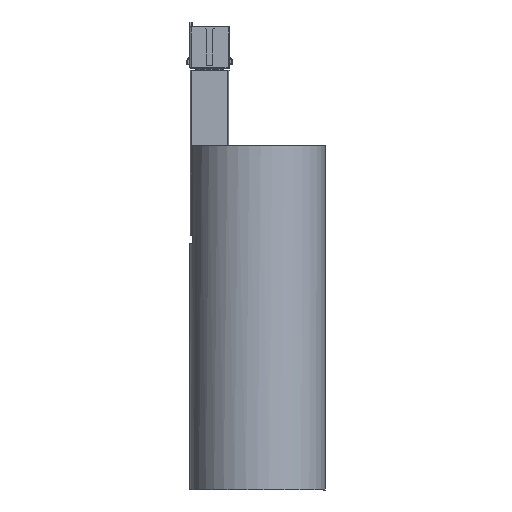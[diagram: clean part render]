
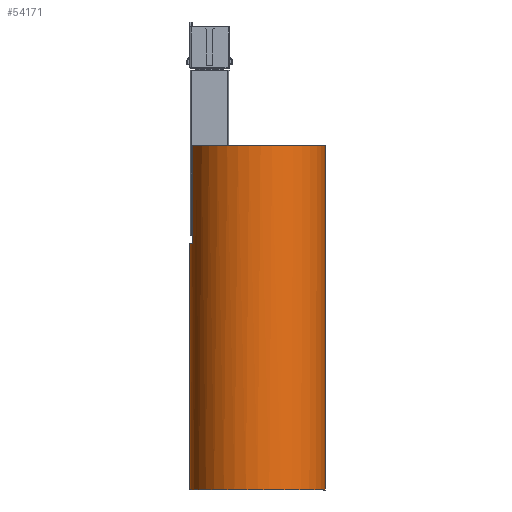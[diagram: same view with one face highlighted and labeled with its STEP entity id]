
A CAD part, left-side view. The second image highlights one B-rep face of the part: STEP entity #54171.
In plain terms, the highlighted cylindrical face has radius 27.5 mm (diameter 55 mm), a partial arc.
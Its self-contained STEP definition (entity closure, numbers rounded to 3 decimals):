
#960 = ORIENTED_EDGE ( 'NONE', *, *, #35964, .F. ) ;
#1223 = DIRECTION ( 'NONE',  ( 0., 0., -1. ) ) ;
#4166 = CARTESIAN_POINT ( 'NONE',  ( 0., -27.5, 140. ) ) ;
#4260 = VERTEX_POINT ( 'NONE', #68384 ) ;
#4697 = ORIENTED_EDGE ( 'NONE', *, *, #37297, .T. ) ;
#4965 = ORIENTED_EDGE ( 'NONE', *, *, #43207, .F. ) ;
#5997 = DIRECTION ( 'NONE',  ( 0., -1., 0. ) ) ;
#6461 = LINE ( 'NONE', #57373, #19674 ) ;
#8506 = LINE ( 'NONE', #15656, #13728 ) ;
#9240 = DIRECTION ( 'NONE',  ( 0., 0., 1. ) ) ;
#13728 = VECTOR ( 'NONE', #38105, 1000. ) ;
#15656 = CARTESIAN_POINT ( 'NONE',  ( -7., -26.594, 140. ) ) ;
#15835 = FACE_OUTER_BOUND ( 'NONE', #58892, .T. ) ;
#16395 = EDGE_CURVE ( 'NONE', #43056, #38589, #6461, .T. ) ;
#17090 = AXIS2_PLACEMENT_3D ( 'NONE', #64826, #35533, #58954 ) ;
#19238 = DIRECTION ( 'NONE',  ( 0., 1., 0. ) ) ;
#19341 = VERTEX_POINT ( 'NONE', #64313 ) ;
#19674 = VECTOR ( 'NONE', #1223, 1000. ) ;
#21250 = CARTESIAN_POINT ( 'NONE',  ( 0., 27.5, 0. ) ) ;
#22000 = CYLINDRICAL_SURFACE ( 'NONE', #65248, 27.5 ) ;
#22119 = LINE ( 'NONE', #4166, #37104 ) ;
#28168 = DIRECTION ( 'NONE',  ( 0., 0., -1. ) ) ;
#29386 = CARTESIAN_POINT ( 'NONE',  ( 0., -27.5, 140. ) ) ;
#30641 = CARTESIAN_POINT ( 'NONE',  ( -7., -26.594, 40. ) ) ;
#32641 = ORIENTED_EDGE ( 'NONE', *, *, #49635, .F. ) ;
#32663 = CARTESIAN_POINT ( 'NONE',  ( 0., 0., 40. ) ) ;
#35533 = DIRECTION ( 'NONE',  ( 0., 0., 1. ) ) ;
#35554 = CIRCLE ( 'NONE', #46441, 27.5 ) ;
#35964 = EDGE_CURVE ( 'NONE', #43056, #46632, #70101, .T. ) ;
#37104 = VECTOR ( 'NONE', #37634, 1000. ) ;
#37297 = EDGE_CURVE ( 'NONE', #62782, #19341, #35554, .T. ) ;
#37634 = DIRECTION ( 'NONE',  ( 0., 0., -1. ) ) ;
#37690 = ORIENTED_EDGE ( 'NONE', *, *, #16395, .T. ) ;
#38105 = DIRECTION ( 'NONE',  ( 0., 0., -1. ) ) ;
#38589 = VERTEX_POINT ( 'NONE', #21250 ) ;
#41411 = CARTESIAN_POINT ( 'NONE',  ( 0., 0., 0. ) ) ;
#43056 = VERTEX_POINT ( 'NONE', #54191 ) ;
#43207 = EDGE_CURVE ( 'NONE', #46632, #19341, #22119, .T. ) ;
#44438 = AXIS2_PLACEMENT_3D ( 'NONE', #41411, #69950, #19238 ) ;
#44918 = CARTESIAN_POINT ( 'NONE',  ( 0., 0., 140. ) ) ;
#46441 = AXIS2_PLACEMENT_3D ( 'NONE', #32663, #9240, #71544 ) ;
#46632 = VERTEX_POINT ( 'NONE', #29386 ) ;
#49635 = EDGE_CURVE ( 'NONE', #62782, #4260, #8506, .T. ) ;
#52747 = EDGE_CURVE ( 'NONE', #38589, #4260, #53950, .T. ) ;
#53950 = CIRCLE ( 'NONE', #44438, 27.5 ) ;
#54171 = ADVANCED_FACE ( 'NONE', ( #15835 ), #22000, .T. ) ;
#54191 = CARTESIAN_POINT ( 'NONE',  ( 0., 27.5, 140. ) ) ;
#55162 = ORIENTED_EDGE ( 'NONE', *, *, #52747, .T. ) ;
#57373 = CARTESIAN_POINT ( 'NONE',  ( 0., 27.5, 140. ) ) ;
#58892 = EDGE_LOOP ( 'NONE', ( #960, #37690, #55162, #32641, #4697, #4965 ) ) ;
#58954 = DIRECTION ( 'NONE',  ( 0., 1., 0. ) ) ;
#62782 = VERTEX_POINT ( 'NONE', #30641 ) ;
#64313 = CARTESIAN_POINT ( 'NONE',  ( 0., -27.5, 40. ) ) ;
#64826 = CARTESIAN_POINT ( 'NONE',  ( 0., 0., 140. ) ) ;
#65248 = AXIS2_PLACEMENT_3D ( 'NONE', #44918, #28168, #5997 ) ;
#68384 = CARTESIAN_POINT ( 'NONE',  ( -7., -26.594, 0. ) ) ;
#69950 = DIRECTION ( 'NONE',  ( 0., 0., 1. ) ) ;
#70101 = CIRCLE ( 'NONE', #17090, 27.5 ) ;
#71544 = DIRECTION ( 'NONE',  ( 1., 0., 0. ) ) ;
